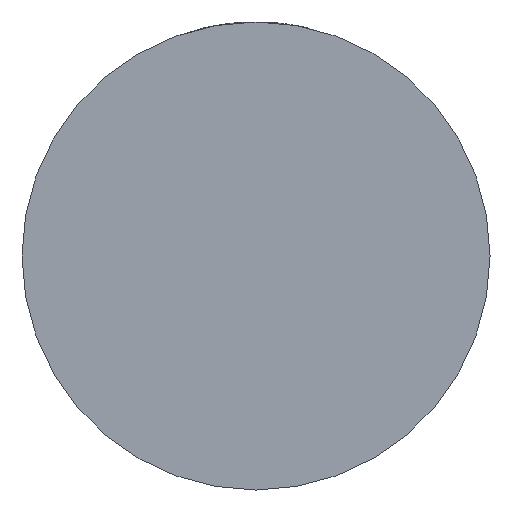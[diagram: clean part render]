
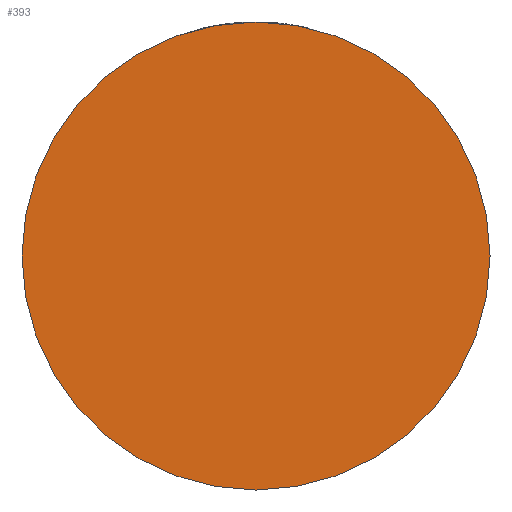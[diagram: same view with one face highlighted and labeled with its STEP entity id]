
A CAD part, front view. The second image highlights one B-rep face of the part: STEP entity #393.
In plain terms, the highlighted planar face has unit normal (0, -1, 0).
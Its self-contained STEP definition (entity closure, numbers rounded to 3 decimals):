
#24 = AXIS2_PLACEMENT_3D ( 'NONE', #4163, #3488, #1424 ) ;
#304 = CARTESIAN_POINT ( 'NONE',  ( 40., -28., 0. ) ) ;
#393 = ADVANCED_FACE ( 'NONE', ( #2574 ), #3939, .T. ) ;
#586 = CIRCLE ( 'NONE', #3581, 40. ) ;
#655 = CIRCLE ( 'NONE', #24, 40. ) ;
#707 = ORIENTED_EDGE ( 'NONE', *, *, #2542, .T. ) ;
#810 = AXIS2_PLACEMENT_3D ( 'NONE', #2231, #3603, #3265 ) ;
#820 = VERTEX_POINT ( 'NONE', #3651 ) ;
#1216 = DIRECTION ( 'NONE',  ( 0., -1., 0. ) ) ;
#1424 = DIRECTION ( 'NONE',  ( 1., 0., 0. ) ) ;
#1504 = EDGE_LOOP ( 'NONE', ( #707, #3552 ) ) ;
#1867 = VERTEX_POINT ( 'NONE', #304 ) ;
#2231 = CARTESIAN_POINT ( 'NONE',  ( 0., -28., 0. ) ) ;
#2542 = EDGE_CURVE ( 'NONE', #820, #1867, #655, .T. ) ;
#2574 = FACE_OUTER_BOUND ( 'NONE', #1504, .T. ) ;
#2588 = DIRECTION ( 'NONE',  ( 1., 0., 0. ) ) ;
#2775 = EDGE_CURVE ( 'NONE', #1867, #820, #586, .T. ) ;
#3265 = DIRECTION ( 'NONE',  ( 1., 0., 0. ) ) ;
#3488 = DIRECTION ( 'NONE',  ( 0., -1., 0. ) ) ;
#3552 = ORIENTED_EDGE ( 'NONE', *, *, #2775, .T. ) ;
#3581 = AXIS2_PLACEMENT_3D ( 'NONE', #3928, #1216, #2588 ) ;
#3603 = DIRECTION ( 'NONE',  ( 0., -1., 0. ) ) ;
#3651 = CARTESIAN_POINT ( 'NONE',  ( -40., -28., 0. ) ) ;
#3928 = CARTESIAN_POINT ( 'NONE',  ( 0., -28., 0. ) ) ;
#3939 = PLANE ( 'NONE',  #810 ) ;
#4163 = CARTESIAN_POINT ( 'NONE',  ( 0., -28., 0. ) ) ;
